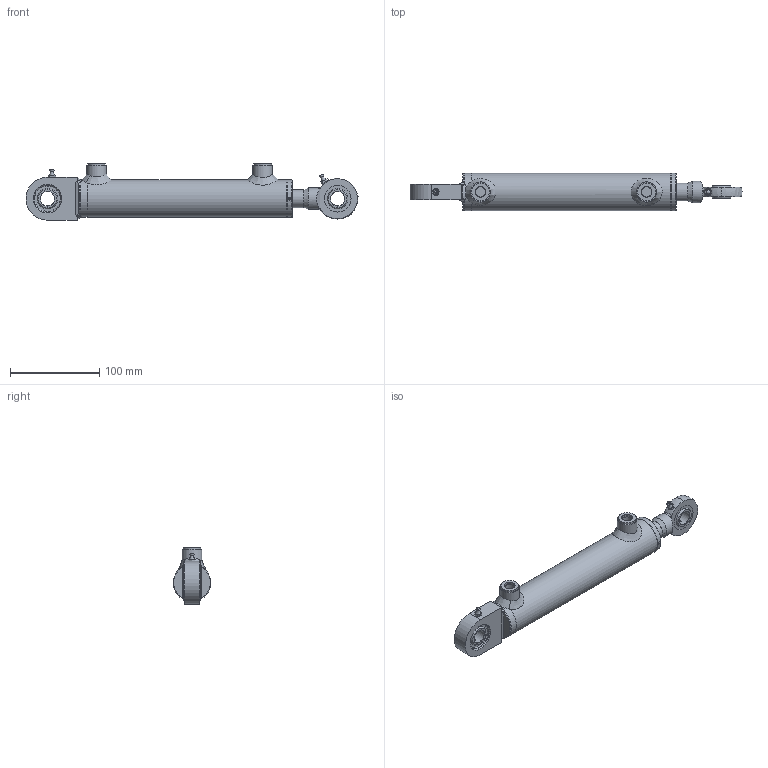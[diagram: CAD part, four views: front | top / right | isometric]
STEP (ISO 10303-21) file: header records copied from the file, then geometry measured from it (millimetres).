
FILE_DESCRIPTION( ( 'Unknown' ), '1' );
FILE_NAME( 'E:/LIBRERIA_3d/CILINDRI/HMB/HMB032200150.stp', 'Unknown', ( 'Unknown' ), ( 'Unknown' ), 'PSStep 17.0.49', 'Unknown', ' ' );
FILE_SCHEMA( ( 'AUTOMOTIVE_DESIGN { 1 0 10303 214 1 1 1 1 }' ) );
Length unit declared in the file: millimetre
Products named in the file (37): CG04203220; CT00032015; CSTSF016C0; tsc16c_corpo; AN00006001; CSTSF016N0-oa2; CSTS016N_CORPO-oa0; CSAI002030; CSAI002030-oa1; STFR032050150-oa10; Saldatura d'angolo 1-oa8; MAT_PRIMA_TUBO_FT04203200-oa9; CBSC220400; CSTS016C00; CGE0160000; CSTS016N00; HM0032200150; Saldatura con preparazione 1-oa6; Saldatura d'angolo 1-oa7; CF00032042; CBS0400000; CDA0001415; APG0400000; SBL0200320150; Assem1; Saldatura con preparazione 1-oa3; Saldatura d'angolo 1-oa4; Saldatura d'angolo 2-oa5
Assembly tree (30 placements, depth 4):
  Saldatura d'angolo 1-oa8
  Saldatura d'angolo 1-oa8
  Saldatura d'angolo 1-oa7
  Saldatura d'angolo 1-oa7
  Assem1
    Saldatura con preparazione 1-oa3
    Saldatura con preparazione 1-oa3
    CSTS016C00
      CGE0160000
      CSTSF016C0
        tsc16c_corpo
        AN00006001
    CSTS016N00
      CGE0160000
      AN00006001
      CSTSF016N0-oa2
        CSTS016N_CORPO-oa0
        CSAI002030
        CSAI002030-oa1
    HM0032200150
      Saldatura con preparazione 1-oa6
      Saldatura con preparazione 1-oa6
      CF00032042
      CBS0400000
      CDA0001415
      APG0400000  x2
      SBL0200320150
      CG04203220
        CG04203220
      CT00032015
        CT00032015
      STFR032050150-oa10
        MAT_PRIMA_TUBO_FT04203200-oa9
        CBSC220400
Bounding box: 371.83 x 42 x 63 mm (x, y, z)
Volume: 320184.2 mm3; surface area: 136521.2 mm2
Topology: 30 solids, 30 shells, 423 faces, 900 edges, 544 vertices
Faces by surface type: plane 130, bspline 106, cylinder 83, cone 53, torus 42, sphere 9
Full cylindrical faces by diameter (mm): 2 x4, 2.4 x1, 3 x3, 3.25 x1, 4 x2, 4.25 x1, 5 x3, 6 x2, 11.445 x2, 12 x2, 13.1 x2, 14 x2, 15 x3, 16 x2, 19.5 x1, 20 x10, 22 x4, 23 x1, 24 x2, 28 x3, 28.3 x1, 28.6 x1, 30 x8, 31.4 x2, 31.9 x1, 32 x1, 32.3 x1, 32.5 x1, 32.6 x1, 33 x1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
Entity records: 18914 total; most frequent: CARTESIAN_POINT 8609, DIRECTION 1252, ORIENTED_EDGE 1224, EDGE_LOOP 629, EDGE_CURVE 612, AXIS2_PLACEMENT_3D 576, FACE_OUTER_BOUND 520, VERTEX_POINT 453
